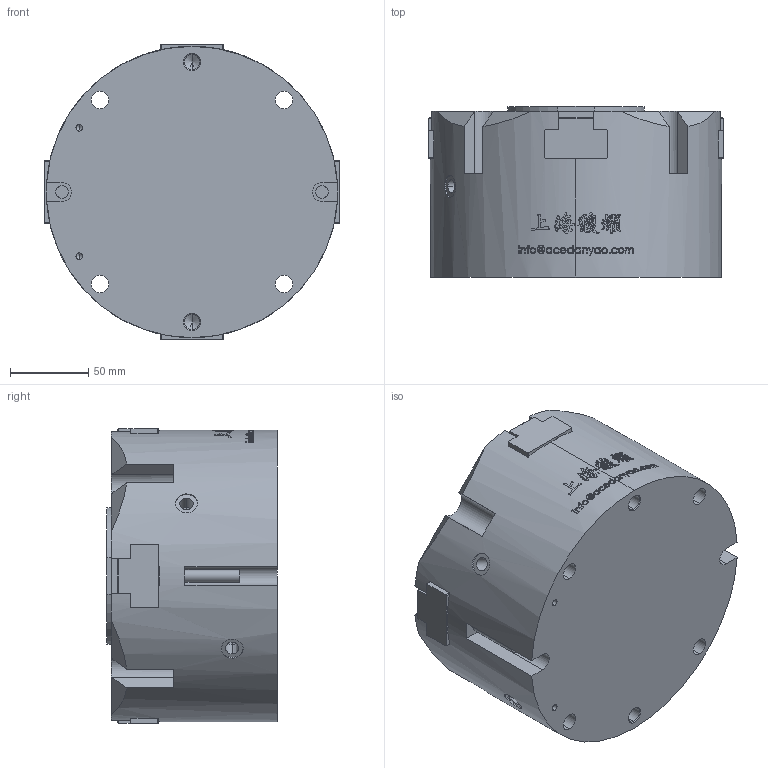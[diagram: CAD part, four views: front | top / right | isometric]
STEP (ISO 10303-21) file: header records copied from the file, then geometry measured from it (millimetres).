
FILE_DESCRIPTION (( 'STEP AP203' ), '1' );
FILE_NAME ('MA4-185-C1-原始檔-組合-W106.04.17.STEP', '2017-04-17T03:19:53', ( 'DanyaoCAD' ), ( '' ), 'SwSTEP 2.0', 'SolidWorks 2016', '' );
FILE_SCHEMA (( 'CONFIG_CONTROL_DESIGN' ));
Products named in the file (3): MA4-185-C1-原始檔-組合-W106.04.17; Griffa; Corpo
Assembly tree (5 placements, depth 2):
  MA4-185-C1-原始檔-組合-W106.04.17
    Griffa  x4
    Corpo
Bounding box: 188 x 109 x 188 mm (x, y, z)
Volume: 2732978.1 mm3; surface area: 218924.3 mm2
Topology: 5 solids, 5 shells, 1110 faces, 3063 edges, 2012 vertices
Faces by surface type: bspline 665, plane 293, cylinder 128, cone 24
Entity records: 112007 total; most frequent: CARTESIAN_POINT 92082, ORIENTED_EDGE 5538, EDGE_CURVE 2769, B_SPLINE_CURVE_WITH_KNOTS 2048, VERTEX_POINT 1832, DIRECTION 1555, EDGE_LOOP 1059, ADVANCED_FACE 993
